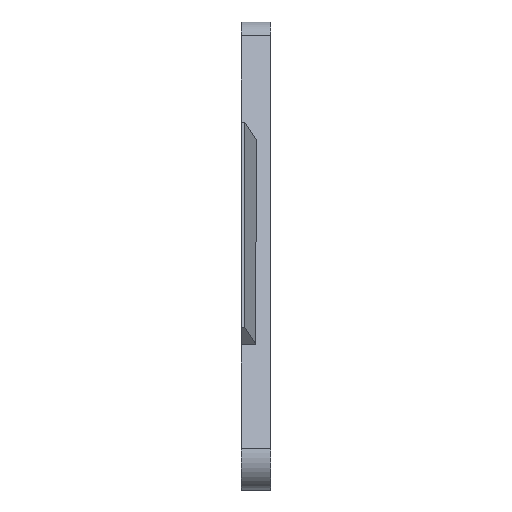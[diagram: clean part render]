
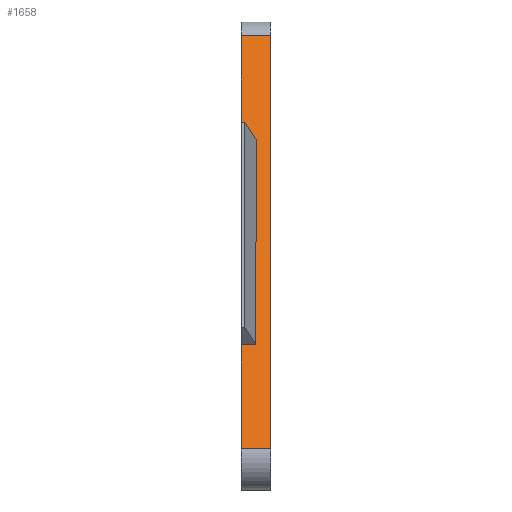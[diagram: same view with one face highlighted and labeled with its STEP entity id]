
A CAD part, left-side view. The second image highlights one B-rep face of the part: STEP entity #1658.
In plain terms, the highlighted planar face has unit normal (-0.921, 0, 0.389).
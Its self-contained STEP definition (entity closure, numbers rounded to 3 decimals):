
#14 = DIRECTION ( 'NONE',  ( 0.389, 0., 0.921 ) ) ;
#33 = ORIENTED_EDGE ( 'NONE', *, *, #942, .F. ) ;
#38 = VECTOR ( 'NONE', #253, 1000. ) ;
#55 = LINE ( 'NONE', #484, #1693 ) ;
#65 = CARTESIAN_POINT ( 'NONE',  ( -26.886, 0., -53.445 ) ) ;
#82 = PLANE ( 'NONE',  #1580 ) ;
#125 = ORIENTED_EDGE ( 'NONE', *, *, #790, .F. ) ;
#179 = LINE ( 'NONE', #1578, #1425 ) ;
#253 = DIRECTION ( 'NONE',  ( 0.389, 0., 0.921 ) ) ;
#279 = ORIENTED_EDGE ( 'NONE', *, *, #868, .F. ) ;
#386 = VECTOR ( 'NONE', #1713, 1000. ) ;
#428 = DIRECTION ( 'NONE',  ( 0.389, 0., 0.921 ) ) ;
#484 = CARTESIAN_POINT ( 'NONE',  ( -9.327, 0., -11.819 ) ) ;
#491 = VECTOR ( 'NONE', #711, 1000. ) ;
#511 = LINE ( 'NONE', #621, #386 ) ;
#521 = LINE ( 'NONE', #1645, #38 ) ;
#534 = LINE ( 'NONE', #1163, #491 ) ;
#548 = ORIENTED_EDGE ( 'NONE', *, *, #1897, .T. ) ;
#550 = CARTESIAN_POINT ( 'NONE',  ( -9.327, 2., -11.819 ) ) ;
#569 = EDGE_CURVE ( 'NONE', #671, #1040, #714, .T. ) ;
#621 = CARTESIAN_POINT ( 'NONE',  ( -3.428, 4., 2.166 ) ) ;
#671 = VERTEX_POINT ( 'NONE', #1227 ) ;
#684 = ORIENTED_EDGE ( 'NONE', *, *, #752, .T. ) ;
#701 = CARTESIAN_POINT ( 'NONE',  ( -26.886, 4., -53.445 ) ) ;
#711 = DIRECTION ( 'NONE',  ( 0.389, 0., 0.921 ) ) ;
#714 = LINE ( 'NONE', #1355, #1652 ) ;
#743 = VERTEX_POINT ( 'NONE', #947 ) ;
#752 = EDGE_CURVE ( 'NONE', #1566, #1229, #179, .T. ) ;
#790 = EDGE_CURVE ( 'NONE', #1071, #1229, #511, .T. ) ;
#807 = EDGE_CURVE ( 'NONE', #810, #1566, #990, .T. ) ;
#810 = VERTEX_POINT ( 'NONE', #701 ) ;
#868 = EDGE_CURVE ( 'NONE', #810, #671, #534, .T. ) ;
#878 = DIRECTION ( 'NONE',  ( -0.389, 0., -0.921 ) ) ;
#942 = EDGE_CURVE ( 'NONE', #743, #1071, #521, .T. ) ;
#947 = CARTESIAN_POINT ( 'NONE',  ( -9.327, 4., -11.819 ) ) ;
#981 = CARTESIAN_POINT ( 'NONE',  ( -26.886, 4., -53.445 ) ) ;
#990 = LINE ( 'NONE', #981, #1103 ) ;
#991 = FACE_OUTER_BOUND ( 'NONE', #1791, .T. ) ;
#1040 = VERTEX_POINT ( 'NONE', #1675 ) ;
#1071 = VERTEX_POINT ( 'NONE', #1528 ) ;
#1092 = ORIENTED_EDGE ( 'NONE', *, *, #807, .T. ) ;
#1103 = VECTOR ( 'NONE', #1636, 1000. ) ;
#1163 = CARTESIAN_POINT ( 'NONE',  ( -26.886, 4., -53.445 ) ) ;
#1170 = CARTESIAN_POINT ( 'NONE',  ( -3.428, 0., 2.166 ) ) ;
#1211 = VECTOR ( 'NONE', #428, 1000. ) ;
#1213 = VERTEX_POINT ( 'NONE', #550 ) ;
#1227 = CARTESIAN_POINT ( 'NONE',  ( -20.986, 4., -39.46 ) ) ;
#1229 = VERTEX_POINT ( 'NONE', #1170 ) ;
#1310 = ORIENTED_EDGE ( 'NONE', *, *, #1734, .F. ) ;
#1355 = CARTESIAN_POINT ( 'NONE',  ( -20.986, 0., -39.46 ) ) ;
#1425 = VECTOR ( 'NONE', #14, 1000. ) ;
#1528 = CARTESIAN_POINT ( 'NONE',  ( -3.428, 4., 2.166 ) ) ;
#1566 = VERTEX_POINT ( 'NONE', #65 ) ;
#1578 = CARTESIAN_POINT ( 'NONE',  ( -26.886, 0., -53.445 ) ) ;
#1580 = AXIS2_PLACEMENT_3D ( 'NONE', #1660, #1945, #878 ) ;
#1636 = DIRECTION ( 'NONE',  ( 0., -1., 0. ) ) ;
#1645 = CARTESIAN_POINT ( 'NONE',  ( -26.886, 4., -53.445 ) ) ;
#1652 = VECTOR ( 'NONE', #1989, 1000. ) ;
#1658 = ADVANCED_FACE ( 'NONE', ( #991 ), #82, .F. ) ;
#1660 = CARTESIAN_POINT ( 'NONE',  ( -26.886, 4., -53.445 ) ) ;
#1675 = CARTESIAN_POINT ( 'NONE',  ( -20.986, 2., -39.46 ) ) ;
#1677 = LINE ( 'NONE', #1871, #1211 ) ;
#1693 = VECTOR ( 'NONE', #1905, 1000. ) ;
#1713 = DIRECTION ( 'NONE',  ( 0., -1., 0. ) ) ;
#1734 = EDGE_CURVE ( 'NONE', #1040, #1213, #1677, .T. ) ;
#1791 = EDGE_LOOP ( 'NONE', ( #548, #1310, #1969, #279, #1092, #684, #125, #33 ) ) ;
#1871 = CARTESIAN_POINT ( 'NONE',  ( -23.39, 2., -45.159 ) ) ;
#1897 = EDGE_CURVE ( 'NONE', #743, #1213, #55, .T. ) ;
#1905 = DIRECTION ( 'NONE',  ( 0., -1., 0. ) ) ;
#1945 = DIRECTION ( 'NONE',  ( 0.921, 0., -0.389 ) ) ;
#1969 = ORIENTED_EDGE ( 'NONE', *, *, #569, .F. ) ;
#1989 = DIRECTION ( 'NONE',  ( 0., -1., 0. ) ) ;
